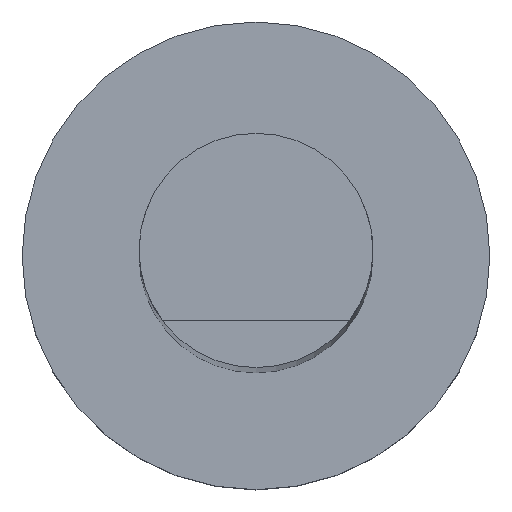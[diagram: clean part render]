
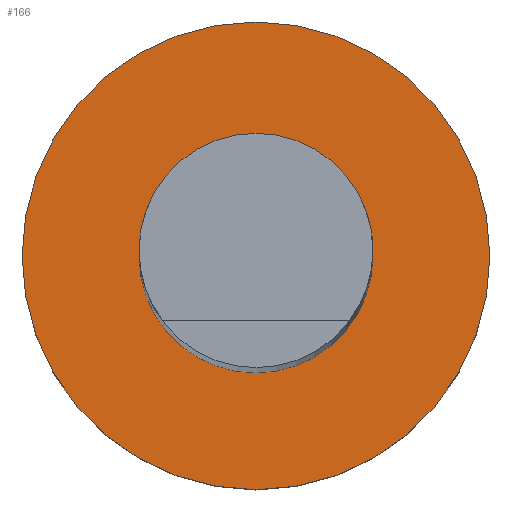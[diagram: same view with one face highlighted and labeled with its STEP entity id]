
A CAD part, top view. The second image highlights one B-rep face of the part: STEP entity #166.
In plain terms, the highlighted planar face has unit normal (0, 0, 1).
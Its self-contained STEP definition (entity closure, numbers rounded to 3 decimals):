
#14 = EDGE_CURVE ( 'NONE', #176, #20, #66, .T. ) ;
#20 = VERTEX_POINT ( 'NONE', #145 ) ;
#66 = CIRCLE ( 'NONE', #285, 2.5 ) ;
#75 = CARTESIAN_POINT ( 'NONE',  ( 2.5, 0., 3. ) ) ;
#119 = EDGE_LOOP ( 'NONE', ( #164, #299 ) ) ;
#128 = EDGE_CURVE ( 'NONE', #20, #176, #317, .T. ) ;
#134 = CIRCLE ( 'NONE', #235, 5. ) ;
#137 = FACE_OUTER_BOUND ( 'NONE', #119, .T. ) ;
#138 = ORIENTED_EDGE ( 'NONE', *, *, #14, .F. ) ;
#145 = CARTESIAN_POINT ( 'NONE',  ( -2.5, 0., 3. ) ) ;
#153 = CARTESIAN_POINT ( 'NONE',  ( 0., 0., 3. ) ) ;
#164 = ORIENTED_EDGE ( 'NONE', *, *, #386, .T. ) ;
#166 = ADVANCED_FACE ( 'NONE', ( #137, #223 ), #228, .T. ) ;
#171 = CARTESIAN_POINT ( 'NONE',  ( 0., 0., 3. ) ) ;
#176 = VERTEX_POINT ( 'NONE', #75 ) ;
#202 = DIRECTION ( 'NONE',  ( 1., 0., 0. ) ) ;
#223 = FACE_BOUND ( 'NONE', #346, .T. ) ;
#228 = PLANE ( 'NONE',  #277 ) ;
#229 = CARTESIAN_POINT ( 'NONE',  ( 5., 0., 3. ) ) ;
#231 = ORIENTED_EDGE ( 'NONE', *, *, #128, .F. ) ;
#232 = VERTEX_POINT ( 'NONE', #388 ) ;
#235 = AXIS2_PLACEMENT_3D ( 'NONE', #153, #372, #336 ) ;
#248 = DIRECTION ( 'NONE',  ( 0., 0., 1. ) ) ;
#252 = AXIS2_PLACEMENT_3D ( 'NONE', #327, #248, #379 ) ;
#256 = DIRECTION ( 'NONE',  ( 0., 0., 1. ) ) ;
#267 = CARTESIAN_POINT ( 'NONE',  ( 0., 0., 3. ) ) ;
#271 = DIRECTION ( 'NONE',  ( 1., 0., 0. ) ) ;
#274 = VERTEX_POINT ( 'NONE', #229 ) ;
#277 = AXIS2_PLACEMENT_3D ( 'NONE', #171, #256, #202 ) ;
#280 = EDGE_CURVE ( 'NONE', #274, #232, #134, .T. ) ;
#285 = AXIS2_PLACEMENT_3D ( 'NONE', #267, #333, #271 ) ;
#299 = ORIENTED_EDGE ( 'NONE', *, *, #280, .T. ) ;
#307 = DIRECTION ( 'NONE',  ( 0., 0., 1. ) ) ;
#308 = AXIS2_PLACEMENT_3D ( 'NONE', #337, #307, #330 ) ;
#317 = CIRCLE ( 'NONE', #252, 2.5 ) ;
#327 = CARTESIAN_POINT ( 'NONE',  ( 0., 0., 3. ) ) ;
#330 = DIRECTION ( 'NONE',  ( 1., 0., 0. ) ) ;
#333 = DIRECTION ( 'NONE',  ( 0., 0., 1. ) ) ;
#336 = DIRECTION ( 'NONE',  ( 1., 0., 0. ) ) ;
#337 = CARTESIAN_POINT ( 'NONE',  ( 0., 0., 3. ) ) ;
#346 = EDGE_LOOP ( 'NONE', ( #231, #138 ) ) ;
#356 = CIRCLE ( 'NONE', #308, 5. ) ;
#372 = DIRECTION ( 'NONE',  ( 0., 0., 1. ) ) ;
#379 = DIRECTION ( 'NONE',  ( 1., 0., 0. ) ) ;
#386 = EDGE_CURVE ( 'NONE', #232, #274, #356, .T. ) ;
#388 = CARTESIAN_POINT ( 'NONE',  ( -5., 0., 3. ) ) ;
